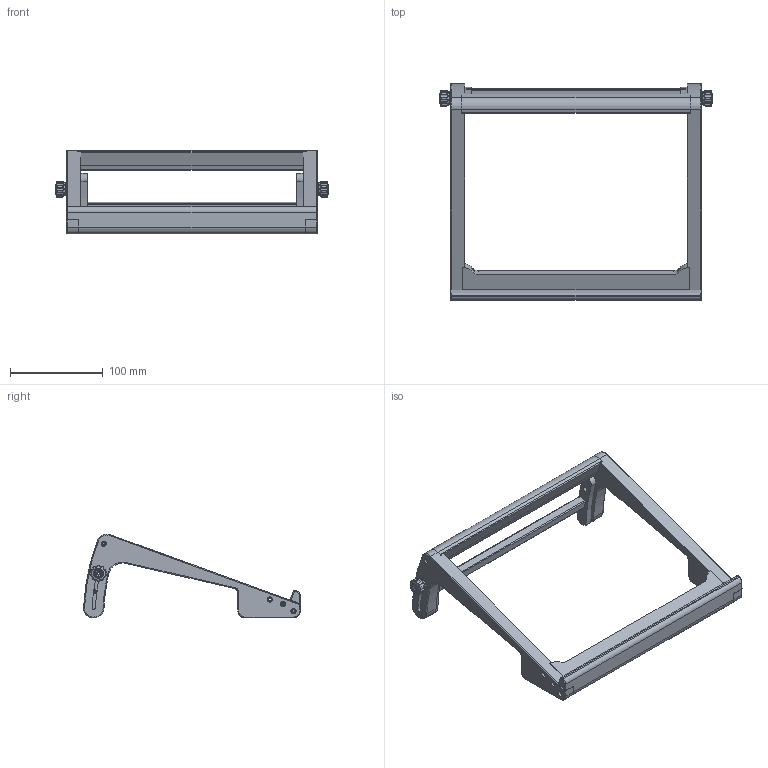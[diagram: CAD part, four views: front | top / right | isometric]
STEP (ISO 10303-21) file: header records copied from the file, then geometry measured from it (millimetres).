
FILE_DESCRIPTION(/* description */ (''),/* implementation_level */ '2;1');
FILE_NAME(/* name */ 'C:/Users/eggysayoga/Desktop/penTabletStand/penTabletStand.step',/* time_stamp */ '2021-01-10T23:50:23+08:00',/* author */ (''),/* organization */ (''),/* preprocessor_version */ 'ST-DEVELOPER v18.1',/* originating_system */ 'Autodesk Translation Framework v9.7.1.1290',/* authorisation */ '');
FILE_SCHEMA (('AUTOMOTIVE_DESIGN { 1 0 10303 214 3 1 1 }'));
Length unit declared in the file: millimetre
Products named in the file (7): huionStand_simplified; Stand; tensionerKnob v3; Knob; TopCap; Knob(Mirror); TopCap(Mirror)
Assembly tree (6 placements, depth 3):
  huionStand_simplified
    Stand
    tensionerKnob v3
      Knob
      TopCap
      Knob(Mirror)
      TopCap(Mirror)
Bounding box: 293 x 233.5 x 90.45 mm (x, y, z)
Volume: 430081.2 mm3; surface area: 123205.9 mm2
Topology: 12 solids, 12 shells, 647 faces, 1494 edges, 884 vertices
Faces by surface type: plane 240, cylinder 205, sphere 80, bspline 70, torus 48, cone 4
Full cylindrical faces by diameter (mm): 2.6 x12, 3.2 x6, 3.3 x2, 3.4 x6, 5.6 x8, 5.7 x4, 8.4 x2, 8.5 x2, 14 x2
Entity records: 21852 total; most frequent: CARTESIAN_POINT 6914, DIRECTION 3202, ORIENTED_EDGE 2988, EDGE_CURVE 1494, AXIS2_PLACEMENT_3D 1262, VERTEX_POINT 884, EDGE_LOOP 700, LINE 678
